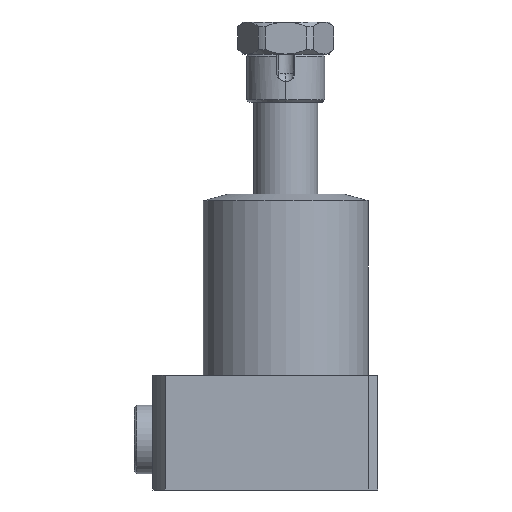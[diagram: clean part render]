
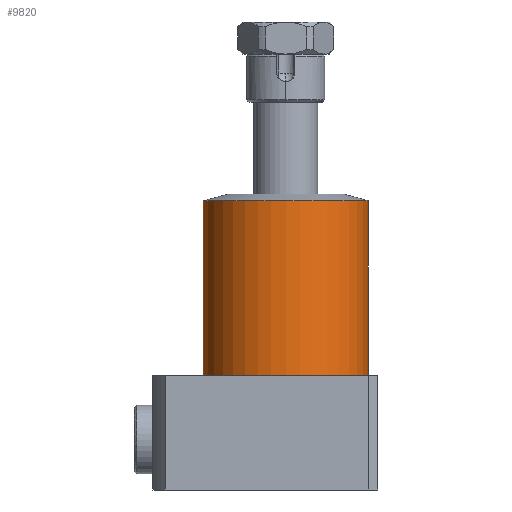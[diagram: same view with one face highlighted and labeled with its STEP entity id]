
A CAD part, front view. The second image highlights one B-rep face of the part: STEP entity #9820.
In plain terms, the highlighted cylindrical face has radius 18 mm (diameter 36 mm), a partial arc.
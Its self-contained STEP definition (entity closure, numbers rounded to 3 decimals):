
#87 = CARTESIAN_POINT ( 'NONE',  ( 18., 0., 25. ) ) ;
#196 = CARTESIAN_POINT ( 'NONE',  ( 18., 0., 63.026 ) ) ;
#465 = DIRECTION ( 'NONE',  ( 0., 0., -1. ) ) ;
#806 = ORIENTED_EDGE ( 'NONE', *, *, #6214, .F. ) ;
#1009 = DIRECTION ( 'NONE',  ( 0., 0., 1. ) ) ;
#1128 = EDGE_CURVE ( 'NONE', #9131, #8646, #11887, .T. ) ;
#1299 = ORIENTED_EDGE ( 'NONE', *, *, #1128, .T. ) ;
#1337 = FACE_OUTER_BOUND ( 'NONE', #1683, .T. ) ;
#1683 = EDGE_LOOP ( 'NONE', ( #4649, #17535, #1299, #806 ) ) ;
#1882 = CARTESIAN_POINT ( 'NONE',  ( 0., 0., 64.5 ) ) ;
#3945 = EDGE_CURVE ( 'NONE', #9131, #13942, #14380, .T. ) ;
#3977 = CARTESIAN_POINT ( 'NONE',  ( 0., 0., 25. ) ) ;
#4079 = VERTEX_POINT ( 'NONE', #87 ) ;
#4548 = CIRCLE ( 'NONE', #6142, 18. ) ;
#4649 = ORIENTED_EDGE ( 'NONE', *, *, #9361, .F. ) ;
#5346 = CARTESIAN_POINT ( 'NONE',  ( -18., 0., 64.5 ) ) ;
#5361 = DIRECTION ( 'NONE',  ( -1., 0., 0. ) ) ;
#6142 = AXIS2_PLACEMENT_3D ( 'NONE', #3977, #13739, #5361 ) ;
#6214 = EDGE_CURVE ( 'NONE', #4079, #8646, #4548, .T. ) ;
#8646 = VERTEX_POINT ( 'NONE', #10051 ) ;
#9131 = VERTEX_POINT ( 'NONE', #10872 ) ;
#9328 = CARTESIAN_POINT ( 'NONE',  ( 0., 0., 63.026 ) ) ;
#9361 = EDGE_CURVE ( 'NONE', #13942, #4079, #10168, .T. ) ;
#9820 = ADVANCED_FACE ( 'NONE', ( #1337 ), #12005, .T. ) ;
#10051 = CARTESIAN_POINT ( 'NONE',  ( -18., 0., 25. ) ) ;
#10168 = LINE ( 'NONE', #15723, #16680 ) ;
#10237 = DIRECTION ( 'NONE',  ( -1., 0., 0. ) ) ;
#10745 = DIRECTION ( 'NONE',  ( -1., 0., 0. ) ) ;
#10872 = CARTESIAN_POINT ( 'NONE',  ( -18., 0., 63.026 ) ) ;
#11011 = VECTOR ( 'NONE', #17767, 1000. ) ;
#11887 = LINE ( 'NONE', #5346, #11011 ) ;
#12005 = CYLINDRICAL_SURFACE ( 'NONE', #14305, 18. ) ;
#12570 = AXIS2_PLACEMENT_3D ( 'NONE', #9328, #1009, #10745 ) ;
#13739 = DIRECTION ( 'NONE',  ( 0., 0., -1. ) ) ;
#13942 = VERTEX_POINT ( 'NONE', #196 ) ;
#14305 = AXIS2_PLACEMENT_3D ( 'NONE', #1882, #15870, #10237 ) ;
#14380 = CIRCLE ( 'NONE', #12570, 18. ) ;
#15723 = CARTESIAN_POINT ( 'NONE',  ( 18., 0., 64.5 ) ) ;
#15870 = DIRECTION ( 'NONE',  ( 0., 0., -1. ) ) ;
#16680 = VECTOR ( 'NONE', #465, 1000. ) ;
#17535 = ORIENTED_EDGE ( 'NONE', *, *, #3945, .F. ) ;
#17767 = DIRECTION ( 'NONE',  ( 0., 0., -1. ) ) ;
